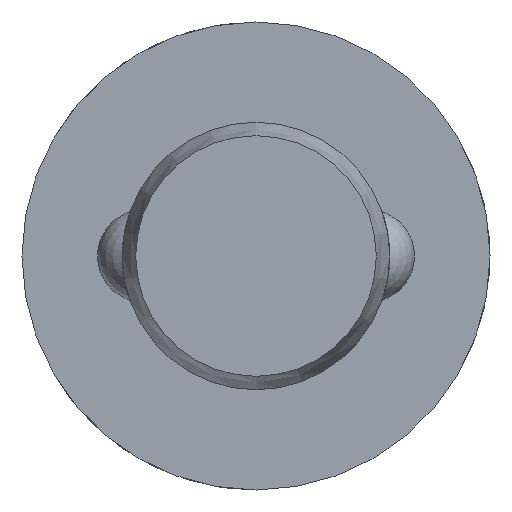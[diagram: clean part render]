
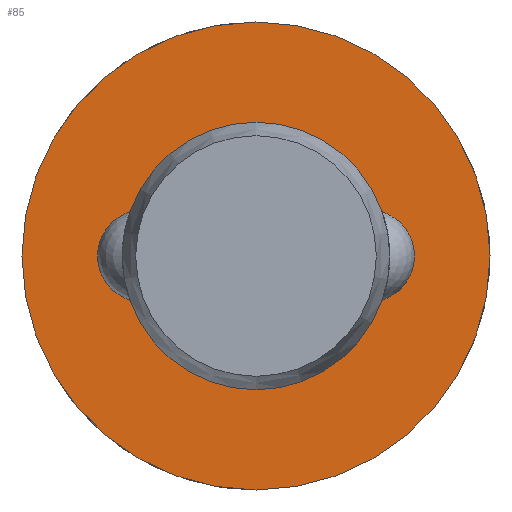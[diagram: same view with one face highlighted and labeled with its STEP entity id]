
A CAD part, left-side view. The second image highlights one B-rep face of the part: STEP entity #85.
In plain terms, the highlighted planar face has unit normal (-1, 0, 0).
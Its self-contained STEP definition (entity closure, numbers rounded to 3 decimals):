
#85 = ADVANCED_FACE( '', ( #130, #131 ), #132, .F. );
#130 = FACE_OUTER_BOUND( '', #200, .T. );
#131 = FACE_BOUND( '', #201, .T. );
#132 = PLANE( '', #202 );
#200 = EDGE_LOOP( '', ( #315 ) );
#201 = EDGE_LOOP( '', ( #316 ) );
#202 = AXIS2_PLACEMENT_3D( '', #317, #318, #319 );
#315 = ORIENTED_EDGE( '', *, *, #458, .F. );
#316 = ORIENTED_EDGE( '', *, *, #455, .T. );
#317 = CARTESIAN_POINT( '', ( 43.2, 4., 0. ) );
#318 = DIRECTION( '', ( 1., 0., 0. ) );
#319 = DIRECTION( '', ( 0., 0., -1. ) );
#455 = EDGE_CURVE( '', #528, #528, #529, .T. );
#458 = EDGE_CURVE( '', #534, #534, #535, .T. );
#528 = VERTEX_POINT( '', #732 );
#529 = CIRCLE( '', #733, 4. );
#534 = VERTEX_POINT( '', #820 );
#535 = CIRCLE( '', #821, 7. );
#732 = CARTESIAN_POINT( '', ( 43.2, 0., -4. ) );
#733 = AXIS2_PLACEMENT_3D( '', #898, #899, #900 );
#820 = CARTESIAN_POINT( '', ( 43.2, 0., -7. ) );
#821 = AXIS2_PLACEMENT_3D( '', #901, #902, #903 );
#898 = CARTESIAN_POINT( '', ( 43.2, 0., 0. ) );
#899 = DIRECTION( '', ( 1., 0., 0. ) );
#900 = DIRECTION( '', ( 0., 0., -1. ) );
#901 = CARTESIAN_POINT( '', ( 43.2, 0., 0. ) );
#902 = DIRECTION( '', ( 1., 0., 0. ) );
#903 = DIRECTION( '', ( 0., 0., -1. ) );
